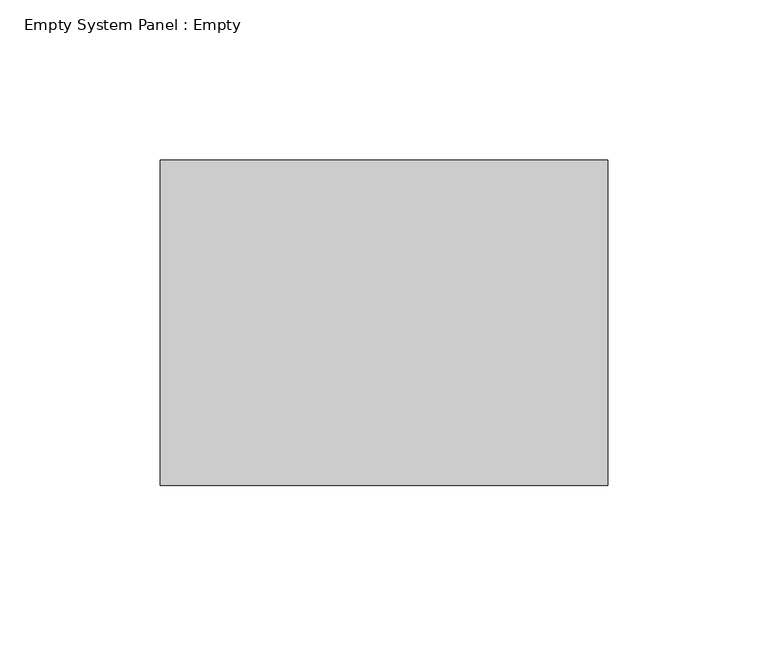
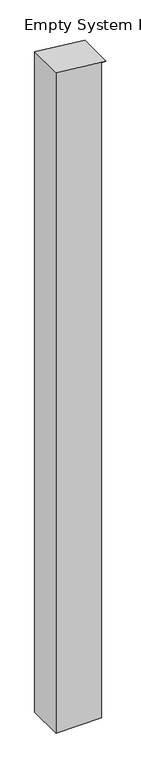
"""IFC4 building model written with IfcOpenShell, lengths in millimetres: plate geometry, Empty System Panel : Empty."""

from ifc_helpers import new_model, si_unit, frame, origin, place, context, project, spatial, polyline, outline, extrude, source, transform, mapped, element, save


def empty_system_panel_empty_7634913a(model_context):
    return source(origin(), model_context, "Body", "SweptSolid", [
        extrude(outline(polyline([(0.0, -69.85), (0.0, 57.15), (1923.1649248, 57.15), (1923.1649248, 69.85), (1938.7901148, -69.85), (0.0, -69.85)])), frame((0.0, -50.8, 0.0), z_axis=(0.0, 1.0, 0.0), x_axis=(0.0, 0.0, 1.0)), (0.0, 0.0, 1.0), 101.6),
    ])


if __name__ == "__main__":
    model = new_model("IFC4")
    model_context = context("Model", 3, world=origin())
    ifc_project = project(units=[si_unit("LENGTHUNIT", "METRE", prefix="MILLI")], contexts=[model_context])
    site = spatial("IfcSite", under=ifc_project)
    building = spatial("IfcBuilding", under=site)
    placement = place(None, origin())
    empty_system_panel_empty_shape = empty_system_panel_empty_7634913a(model_context)
    element("IfcPlate", 1, ObjectType="Empty System Panel : Empty", at=placement, inside=building, context=model_context, shape_type="MappedRepresentation", body=[
        mapped(empty_system_panel_empty_shape, transform((0.0, 0.0, 0.0), x_axis=(1.0, 0.0, 0.0), y_axis=(0.0, 1.0, 0.0), z_axis=(0.0, 0.0, 1.0))),
    ])
    save(model, "model.ifc")
